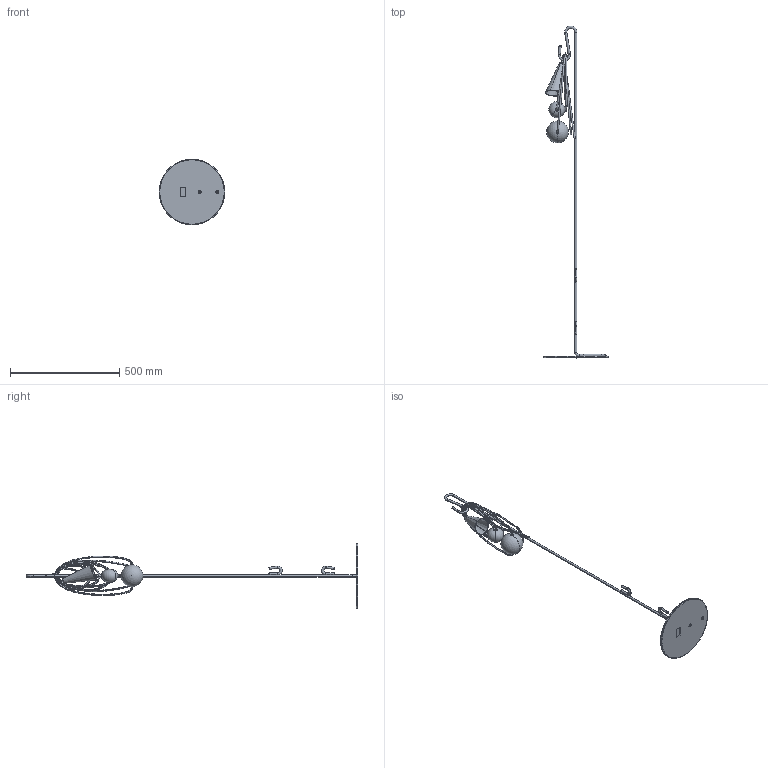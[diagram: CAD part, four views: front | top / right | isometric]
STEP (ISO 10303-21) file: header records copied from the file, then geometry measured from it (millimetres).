
FILE_DESCRIPTION (( 'STEP AP214' ), '1' );
FILE_NAME ('289_STD_R_PL_3D.STEP', '2021-05-05T12:13:23', ( '' ), ( '' ), 'SwSTEP 2.0', 'SolidWorks 2021', '' );
FILE_SCHEMA (( 'AUTOMOTIVE_DESIGN' ));
Length unit declared in the file: millimetre
Products named in the file (1): 289_STD_R_PL_3D
Bounding box: 300 x 1516.6 x 300 mm (x, y, z)
Volume: 1003961.9 mm3; surface area: 573156.8 mm2
Topology: 20 solids, 20 shells, 455 faces, 1069 edges, 633 vertices
Faces by surface type: cylinder 123, plane 117, torus 92, bspline 64, cone 55, sphere 4
Entity records: 28119 total; most frequent: CARTESIAN_POINT 12673, DIRECTION 2234, ORIENTED_EDGE 2098, EDGE_CURVE 1049, AXIS2_PLACEMENT_3D 938, VERTEX_POINT 629, CIRCLE 546, EDGE_LOOP 500
